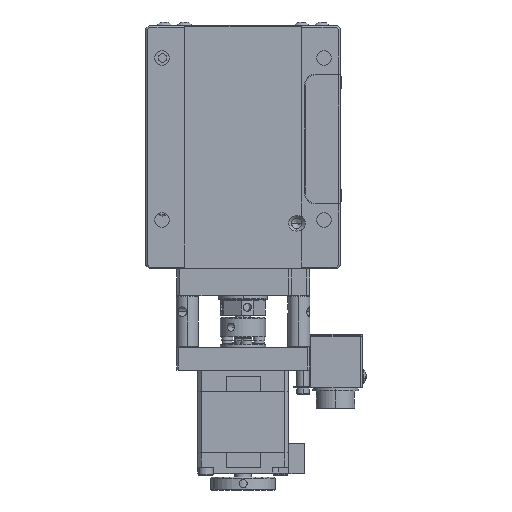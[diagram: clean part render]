
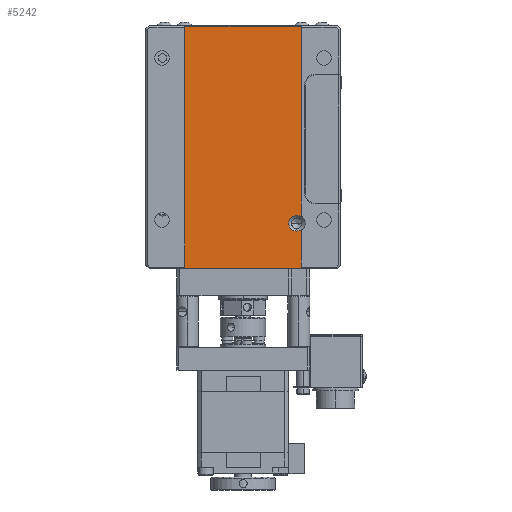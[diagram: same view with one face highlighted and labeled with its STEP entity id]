
A CAD part, front view. The second image highlights one B-rep face of the part: STEP entity #5242.
In plain terms, the highlighted planar face has unit normal (0, -1, 0).
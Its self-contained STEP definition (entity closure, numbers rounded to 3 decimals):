
#465 = LINE ( 'NONE', #41802, #65881 ) ;
#656 = CARTESIAN_POINT ( 'NONE',  ( 2.551, -11.301, 15.694 ) ) ;
#659 = EDGE_CURVE ( 'NONE', #56654, #33337, #29301, .T. ) ;
#2287 = DIRECTION ( 'NONE',  ( 0., 1., 0. ) ) ;
#3416 = EDGE_CURVE ( 'NONE', #6467, #24210, #16514, .T. ) ;
#5242 = ADVANCED_FACE ( 'NONE', ( #49330 ), #12531, .T. ) ;
#6394 = AXIS2_PLACEMENT_3D ( 'NONE', #24135, #2287, #38763 ) ;
#6467 = VERTEX_POINT ( 'NONE', #37330 ) ;
#6574 = DIRECTION ( 'NONE',  ( 0., 1., 0. ) ) ;
#7337 = DIRECTION ( 'NONE',  ( 0., -1., 0. ) ) ;
#7558 = EDGE_CURVE ( 'NONE', #43358, #12852, #16314, .T. ) ;
#8025 = EDGE_CURVE ( 'NONE', #24210, #61289, #22822, .T. ) ;
#8139 = VECTOR ( 'NONE', #10040, 1000. ) ;
#9024 = VECTOR ( 'NONE', #54976, 1000. ) ;
#10040 = DIRECTION ( 'NONE',  ( 0., 0., 1. ) ) ;
#10959 = DIRECTION ( 'NONE',  ( -1., 0., 0. ) ) ;
#12119 = DIRECTION ( 'NONE',  ( 0., 0., -1. ) ) ;
#12531 = PLANE ( 'NONE',  #29858 ) ;
#12852 = VERTEX_POINT ( 'NONE', #31048 ) ;
#14589 = CARTESIAN_POINT ( 'NONE',  ( 4.051, -11.301, 4.094 ) ) ;
#16314 = CIRCLE ( 'NONE', #57314, 2.4 ) ;
#16514 = LINE ( 'NONE', #32854, #45900 ) ;
#16911 = DIRECTION ( 'NONE',  ( 0., 0., -1. ) ) ;
#20047 = DIRECTION ( 'NONE',  ( 0., 0., -1. ) ) ;
#20795 = VECTOR ( 'NONE', #16911, 1000. ) ;
#22822 = LINE ( 'NONE', #43314, #20795 ) ;
#23743 = CARTESIAN_POINT ( 'NONE',  ( 4.051, -11.301, 4.094 ) ) ;
#24135 = CARTESIAN_POINT ( 'NONE',  ( 2.551, -11.301, 18.094 ) ) ;
#24210 = VERTEX_POINT ( 'NONE', #35170 ) ;
#24742 = EDGE_CURVE ( 'NONE', #38747, #6467, #46862, .T. ) ;
#26123 = ORIENTED_EDGE ( 'NONE', *, *, #659, .T. ) ;
#26496 = CARTESIAN_POINT ( 'NONE',  ( 4.051, -11.301, 19.968 ) ) ;
#28531 = DIRECTION ( 'NONE',  ( 0., 0., -1. ) ) ;
#29301 = LINE ( 'NONE', #23743, #9024 ) ;
#29675 = ORIENTED_EDGE ( 'NONE', *, *, #7558, .T. ) ;
#29858 = AXIS2_PLACEMENT_3D ( 'NONE', #54871, #7337, #28531 ) ;
#30462 = ORIENTED_EDGE ( 'NONE', *, *, #36782, .T. ) ;
#30609 = EDGE_CURVE ( 'NONE', #33337, #43358, #58486, .T. ) ;
#31048 = CARTESIAN_POINT ( 'NONE',  ( 2.551, -11.301, 20.494 ) ) ;
#31727 = DIRECTION ( 'NONE',  ( 1., 0., 0. ) ) ;
#32452 = CIRCLE ( 'NONE', #64576, 2.4 ) ;
#32702 = ORIENTED_EDGE ( 'NONE', *, *, #30609, .T. ) ;
#32854 = CARTESIAN_POINT ( 'NONE',  ( -13.949, -11.301, 78.894 ) ) ;
#33337 = VERTEX_POINT ( 'NONE', #50420 ) ;
#34998 = ORIENTED_EDGE ( 'NONE', *, *, #3416, .T. ) ;
#35170 = CARTESIAN_POINT ( 'NONE',  ( -31.949, -11.301, 78.894 ) ) ;
#36782 = EDGE_CURVE ( 'NONE', #12852, #38747, #32452, .T. ) ;
#37330 = CARTESIAN_POINT ( 'NONE',  ( 4.051, -11.301, 78.894 ) ) ;
#38747 = VERTEX_POINT ( 'NONE', #26496 ) ;
#38763 = DIRECTION ( 'NONE',  ( 0., 0., -1. ) ) ;
#39410 = CARTESIAN_POINT ( 'NONE',  ( 4.051, -11.301, 4.294 ) ) ;
#40098 = EDGE_LOOP ( 'NONE', ( #30462, #49367, #34998, #42692, #47805, #26123, #32702, #29675 ) ) ;
#41802 = CARTESIAN_POINT ( 'NONE',  ( -13.949, -11.301, 4.294 ) ) ;
#42692 = ORIENTED_EDGE ( 'NONE', *, *, #8025, .T. ) ;
#43314 = CARTESIAN_POINT ( 'NONE',  ( -31.949, -11.301, 4.094 ) ) ;
#43358 = VERTEX_POINT ( 'NONE', #656 ) ;
#45064 = EDGE_CURVE ( 'NONE', #61289, #56654, #465, .T. ) ;
#45900 = VECTOR ( 'NONE', #10959, 1000. ) ;
#46433 = CARTESIAN_POINT ( 'NONE',  ( 2.551, -11.301, 18.094 ) ) ;
#46862 = LINE ( 'NONE', #14589, #8139 ) ;
#47805 = ORIENTED_EDGE ( 'NONE', *, *, #45064, .T. ) ;
#49330 = FACE_OUTER_BOUND ( 'NONE', #40098, .T. ) ;
#49367 = ORIENTED_EDGE ( 'NONE', *, *, #24742, .T. ) ;
#50420 = CARTESIAN_POINT ( 'NONE',  ( 4.051, -11.301, 16.221 ) ) ;
#53769 = CARTESIAN_POINT ( 'NONE',  ( 2.551, -11.301, 18.094 ) ) ;
#54871 = CARTESIAN_POINT ( 'NONE',  ( -13.949, -11.301, 4.094 ) ) ;
#54976 = DIRECTION ( 'NONE',  ( 0., 0., 1. ) ) ;
#56654 = VERTEX_POINT ( 'NONE', #39410 ) ;
#57314 = AXIS2_PLACEMENT_3D ( 'NONE', #53769, #6574, #12119 ) ;
#57409 = CARTESIAN_POINT ( 'NONE',  ( -31.949, -11.301, 4.294 ) ) ;
#58486 = CIRCLE ( 'NONE', #6394, 2.4 ) ;
#61289 = VERTEX_POINT ( 'NONE', #57409 ) ;
#64576 = AXIS2_PLACEMENT_3D ( 'NONE', #46433, #67567, #20047 ) ;
#65881 = VECTOR ( 'NONE', #31727, 1000. ) ;
#67567 = DIRECTION ( 'NONE',  ( 0., 1., 0. ) ) ;
